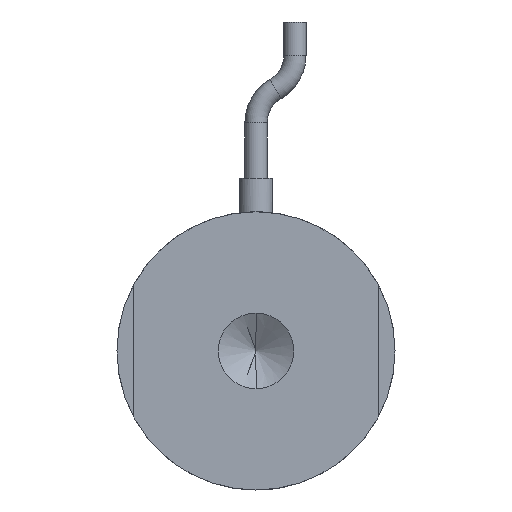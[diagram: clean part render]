
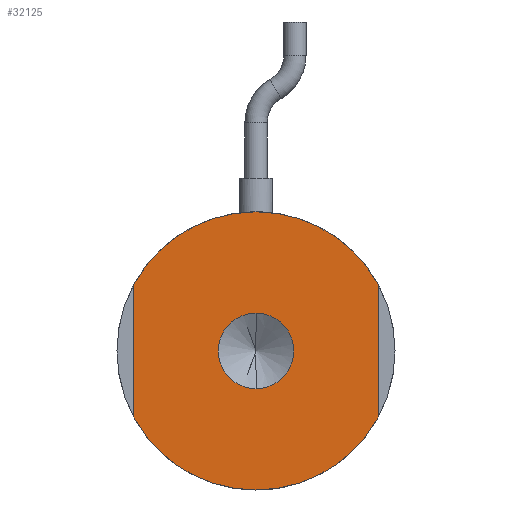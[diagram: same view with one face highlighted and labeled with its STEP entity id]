
A CAD part, front view. The second image highlights one B-rep face of the part: STEP entity #32125.
In plain terms, the highlighted planar face has unit normal (0, -1, 0).
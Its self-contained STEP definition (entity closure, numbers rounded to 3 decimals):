
#1943 = CARTESIAN_POINT ( 'NONE',  ( 0., 0., -3.4 ) ) ;
#2480 = CARTESIAN_POINT ( 'NONE',  ( -11., 0., 5.937 ) ) ;
#3801 = EDGE_CURVE ( 'NONE', #12856, #18656, #39438, .T. ) ;
#5891 = AXIS2_PLACEMENT_3D ( 'NONE', #39867, #19276, #43332 ) ;
#6125 = AXIS2_PLACEMENT_3D ( 'NONE', #44207, #30570, #10104 ) ;
#8457 = CARTESIAN_POINT ( 'NONE',  ( 0., 0., 0. ) ) ;
#8735 = EDGE_CURVE ( 'NONE', #38521, #28327, #37929, .T. ) ;
#9079 = CIRCLE ( 'NONE', #5891, 12.5 ) ;
#9242 = EDGE_CURVE ( 'NONE', #37458, #38521, #15382, .T. ) ;
#10104 = DIRECTION ( 'NONE',  ( 0., 0., 1. ) ) ;
#10150 = DIRECTION ( 'NONE',  ( 0., 0., 1. ) ) ;
#10293 = CARTESIAN_POINT ( 'NONE',  ( -11., 0., 0. ) ) ;
#10585 = CARTESIAN_POINT ( 'NONE',  ( 0., 0., -12.5 ) ) ;
#10624 = EDGE_CURVE ( 'NONE', #40281, #16578, #15340, .T. ) ;
#11249 = EDGE_CURVE ( 'NONE', #28327, #12856, #26034, .T. ) ;
#11752 = ORIENTED_EDGE ( 'NONE', *, *, #17212, .F. ) ;
#11866 = DIRECTION ( 'NONE',  ( 0., 0., 1. ) ) ;
#12856 = VERTEX_POINT ( 'NONE', #10585 ) ;
#12903 = CARTESIAN_POINT ( 'NONE',  ( 11., 0., 0. ) ) ;
#13894 = ORIENTED_EDGE ( 'NONE', *, *, #3801, .F. ) ;
#14029 = CARTESIAN_POINT ( 'NONE',  ( 0., 0., 12.5 ) ) ;
#14531 = CARTESIAN_POINT ( 'NONE',  ( 0., 0., 0. ) ) ;
#15200 = DIRECTION ( 'NONE',  ( 0., -1., 0. ) ) ;
#15340 = CIRCLE ( 'NONE', #43110, 3.4 ) ;
#15382 = CIRCLE ( 'NONE', #17220, 12.5 ) ;
#16002 = ORIENTED_EDGE ( 'NONE', *, *, #9242, .F. ) ;
#16574 = AXIS2_PLACEMENT_3D ( 'NONE', #14531, #38470, #17887 ) ;
#16578 = VERTEX_POINT ( 'NONE', #22278 ) ;
#17212 = EDGE_CURVE ( 'NONE', #16578, #40281, #34553, .T. ) ;
#17220 = AXIS2_PLACEMENT_3D ( 'NONE', #40678, #20085, #44138 ) ;
#17800 = LINE ( 'NONE', #10293, #33956 ) ;
#17887 = DIRECTION ( 'NONE',  ( 0., 0., 1. ) ) ;
#18656 = VERTEX_POINT ( 'NONE', #43173 ) ;
#19276 = DIRECTION ( 'NONE',  ( 0., 1., 0. ) ) ;
#19317 = CARTESIAN_POINT ( 'NONE',  ( 0., 0., 0. ) ) ;
#19409 = AXIS2_PLACEMENT_3D ( 'NONE', #35743, #15200, #39156 ) ;
#20085 = DIRECTION ( 'NONE',  ( 0., 1., 0. ) ) ;
#22278 = CARTESIAN_POINT ( 'NONE',  ( 0., 0., 3.4 ) ) ;
#22771 = DIRECTION ( 'NONE',  ( 0., 0., -1. ) ) ;
#23743 = EDGE_LOOP ( 'NONE', ( #26716, #11752 ) ) ;
#25772 = VERTEX_POINT ( 'NONE', #2480 ) ;
#26034 = CIRCLE ( 'NONE', #44566, 12.5 ) ;
#26716 = ORIENTED_EDGE ( 'NONE', *, *, #10624, .F. ) ;
#27099 = PLANE ( 'NONE',  #6125 ) ;
#27485 = EDGE_LOOP ( 'NONE', ( #39038, #13894, #32070, #42283, #16002, #43360 ) ) ;
#28327 = VERTEX_POINT ( 'NONE', #40526 ) ;
#28793 = VECTOR ( 'NONE', #36871, 1000. ) ;
#30570 = DIRECTION ( 'NONE',  ( 0., 1., 0. ) ) ;
#32070 = ORIENTED_EDGE ( 'NONE', *, *, #11249, .F. ) ;
#32125 = ADVANCED_FACE ( 'NONE', ( #35575, #43615 ), #27099, .F. ) ;
#32337 = DIRECTION ( 'NONE',  ( 0., 1., 0. ) ) ;
#33011 = EDGE_CURVE ( 'NONE', #18656, #25772, #17800, .T. ) ;
#33956 = VECTOR ( 'NONE', #10150, 1000. ) ;
#33998 = CARTESIAN_POINT ( 'NONE',  ( 11., 0., 5.937 ) ) ;
#34553 = CIRCLE ( 'NONE', #19409, 3.4 ) ;
#35575 = FACE_BOUND ( 'NONE', #23743, .T. ) ;
#35743 = CARTESIAN_POINT ( 'NONE',  ( 0., 0., 0. ) ) ;
#36871 = DIRECTION ( 'NONE',  ( 0., 0., -1. ) ) ;
#37458 = VERTEX_POINT ( 'NONE', #14029 ) ;
#37929 = LINE ( 'NONE', #12903, #28793 ) ;
#38470 = DIRECTION ( 'NONE',  ( 0., 1., 0. ) ) ;
#38521 = VERTEX_POINT ( 'NONE', #33998 ) ;
#39038 = ORIENTED_EDGE ( 'NONE', *, *, #33011, .F. ) ;
#39156 = DIRECTION ( 'NONE',  ( 0., 0., -1. ) ) ;
#39438 = CIRCLE ( 'NONE', #16574, 12.5 ) ;
#39867 = CARTESIAN_POINT ( 'NONE',  ( 0., 0., 0. ) ) ;
#40281 = VERTEX_POINT ( 'NONE', #1943 ) ;
#40526 = CARTESIAN_POINT ( 'NONE',  ( 11., 0., -5.937 ) ) ;
#40678 = CARTESIAN_POINT ( 'NONE',  ( 0., 0., 0. ) ) ;
#42283 = ORIENTED_EDGE ( 'NONE', *, *, #8735, .F. ) ;
#43110 = AXIS2_PLACEMENT_3D ( 'NONE', #19317, #43370, #22771 ) ;
#43173 = CARTESIAN_POINT ( 'NONE',  ( -11., 0., -5.937 ) ) ;
#43332 = DIRECTION ( 'NONE',  ( 0., 0., 1. ) ) ;
#43360 = ORIENTED_EDGE ( 'NONE', *, *, #43415, .F. ) ;
#43370 = DIRECTION ( 'NONE',  ( 0., -1., 0. ) ) ;
#43415 = EDGE_CURVE ( 'NONE', #25772, #37458, #9079, .T. ) ;
#43615 = FACE_OUTER_BOUND ( 'NONE', #27485, .T. ) ;
#44138 = DIRECTION ( 'NONE',  ( 0., 0., 1. ) ) ;
#44207 = CARTESIAN_POINT ( 'NONE',  ( 0., 0., 0. ) ) ;
#44566 = AXIS2_PLACEMENT_3D ( 'NONE', #8457, #32337, #11866 ) ;
